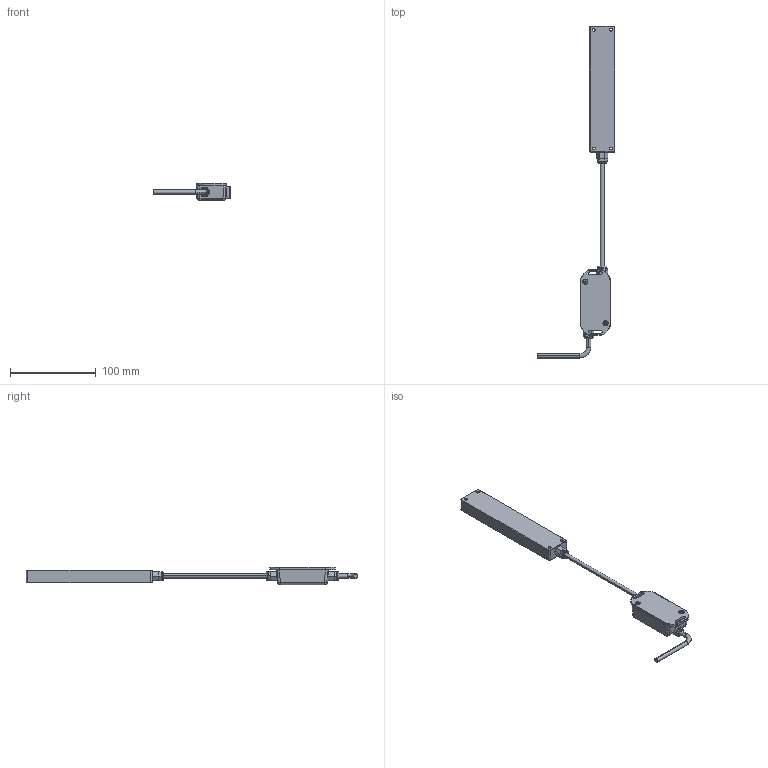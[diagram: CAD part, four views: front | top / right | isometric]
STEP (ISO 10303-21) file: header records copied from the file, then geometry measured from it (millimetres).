
FILE_DESCRIPTION (( 'STEP AP203' ), '1' );
FILE_NAME ('EFFI-SBL-25-125.STEP', '2021-09-13T13:57:20', ( '' ), ( '' ), 'SwSTEP 2.0', 'SolidWorks 2021', '' );
FILE_SCHEMA (( 'CONFIG_CONTROL_DESIGN' ));
Length unit declared in the file: millimetre
Products named in the file (4): 000121_avec cƒble 150mm; DRIVER EXT; EFFI-SBL-25-125; SBL 25-YYY_25-125
Assembly tree (3 placements, depth 2):
  EFFI-SBL-25-125
    SBL 25-YYY_25-125
    000121_avec cƒble 150mm
    DRIVER EXT
Bounding box: 90.7 x 386.52 x 20 mm (x, y, z)
Volume: 62144.3 mm3; surface area: 39331.8 mm2
Topology: 1 solids, 20 shells, 462 faces, 1115 edges, 711 vertices
Faces by surface type: plane 202, cylinder 154, torus 50, cone 34, bspline 22
Entity records: 14264 total; most frequent: CARTESIAN_POINT 2899, DIRECTION 2383, ORIENTED_EDGE 2202, EDGE_CURVE 1113, AXIS2_PLACEMENT_3D 895, VERTEX_POINT 711, LINE 593, VECTOR 593
